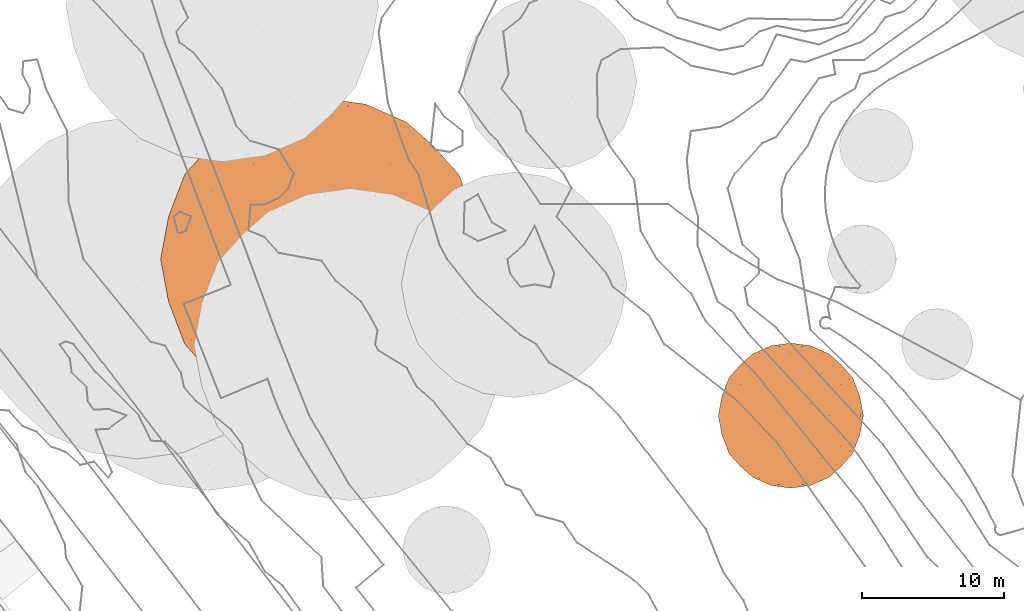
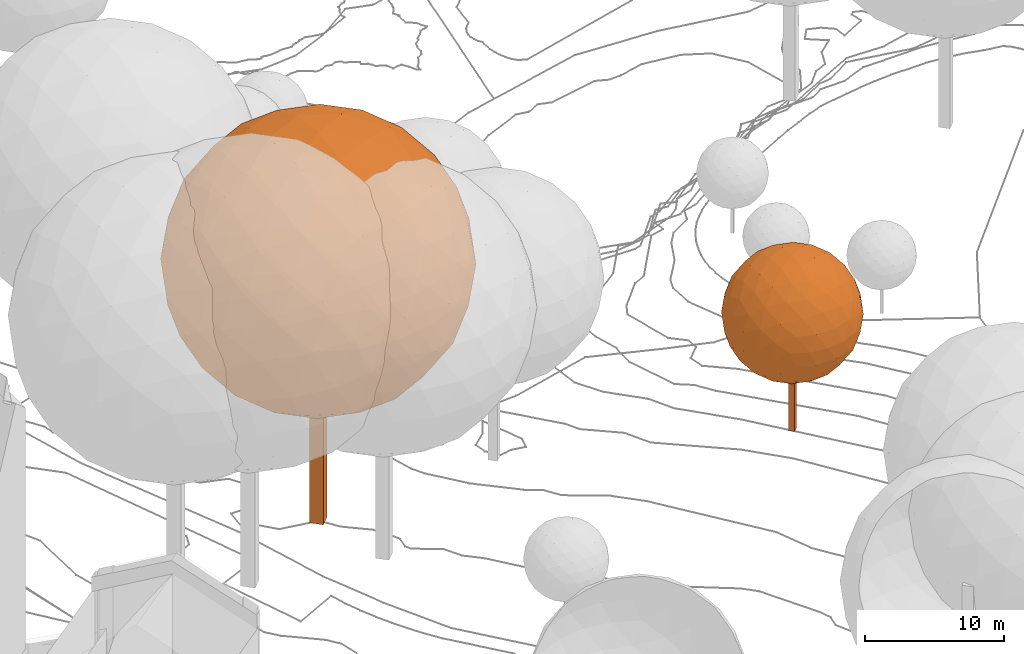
# Not in any storey, part 340 of 477: 2 geographic elements.
"""IFC4 model written with IfcOpenShell, lengths in metres."""

from ifc_helpers import new_model, si_unit, frame, origin_with_axes, place, context, subcontext, project, spatial, polygons, element, save


model = new_model("IFC4")

# Units and contexts
model_context = context("Model", 3, precision=1e-05, world=origin_with_axes())
body_context = subcontext(model_context, "Body", "Model", "MODEL_VIEW")
ifc_project = project(units=[si_unit("AREAUNIT", "SQUARE_METRE"), si_unit("LENGTHUNIT", "METRE")], contexts=[model_context])

# Sites
site_1_placement = place(None, origin_with_axes())
site_1 = spatial("IfcSite", under=ifc_project, at=site_1_placement, Name="Topoexport Site")
site_2_placement = place(site_1_placement, origin_with_axes())
site_2 = spatial("IfcSite", under=site_1, at=site_2_placement, Name="TPX_TREES")

# Geographic elements
geographic_element_1_placement = place(site_2_placement, frame((200.6777320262, 264.1707351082, 539.0314509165), z_axis=(0.0, 0.0, 1.0), x_axis=(1.0, 0.0, 0.0)))
element("IfcGeographicElement", 1, at=geographic_element_1_placement, inside=site_2, Name="Tree TR7 CD226", ObjectType="VEGETATION", PredefinedType="USERDEFINED", context=body_context, shape_type="Tessellation", body=[
    polygons([(0.0, -0.7220021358, 0.0), (-0.7220021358, 0.0, 0.0), (0.0, 0.7220021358, 0.0), (0.7220021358, 0.0, 0.0), (0.0, -0.7220021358, 22.6823660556), (-0.7220021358, 0.0, 22.6823660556), (0.0, 0.7220021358, 22.6823660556), (0.7220021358, 0.0, 22.6823660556)], [[[3, 4, 1]], [[1, 2, 3]], [[5, 8, 7]], [[7, 6, 5]], [[5, 6, 1]], [[1, 6, 2]], [[6, 7, 2]], [[2, 7, 3]], [[8, 5, 4]], [[4, 5, 1]], [[7, 8, 3]], [[3, 8, 4]]]),
    polygons([(-5.962412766, 9.6473865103, 22.6823660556), (5.962412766, 9.6473865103, 22.6823660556), (-5.962412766, -9.6473865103, 22.6823660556), (5.962412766, -9.6473865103, 22.6823660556), (0.0, -5.962412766, 32.3297525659), (0.0, 5.962412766, 32.3297525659), (0.0, -5.962412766, 13.0349795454), (0.0, 5.962412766, 13.0349795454), (9.6473865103, 0.0, 16.7199532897), (9.6473865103, 0.0, 28.6447788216), (-9.6473865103, 0.0, 16.7199532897), (-9.6473865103, 0.0, 28.6447788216), (0.0, 11.3411830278, 22.6823660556), (0.0, -11.3411830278, 22.6823660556), (-3.5046182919, -9.1752098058, 28.3529575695), (3.5046182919, -9.1752098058, 28.3529575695), (-3.5046182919, 9.1752098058, 28.3529575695), (3.5046182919, 9.1752098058, 28.3529575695), (0.0, 0.0, 34.0235490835), (-3.5046182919, -9.1752098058, 17.0117745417), (3.5046182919, -9.1752098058, 17.0117745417), (-3.5046182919, 9.1752098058, 17.0117745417), (3.5046182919, 9.1752098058, 17.0117745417), (0.0, 0.0, 11.3411830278), (9.1752098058, 5.6705915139, 19.1777477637), (9.1752098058, -5.6705915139, 19.1777477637), (5.6705915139, -3.5046182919, 13.5071562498), (5.6705915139, 3.5046182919, 13.5071562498), (9.1752098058, 5.6705915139, 26.1869843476), (9.1752098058, -5.6705915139, 26.1869843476), (5.6705915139, -3.5046182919, 31.8575758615), (5.6705915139, 3.5046182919, 31.8575758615), (11.3411830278, 0.0, 22.6823660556), (-9.1752098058, 5.6705915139, 19.1777477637), (-9.1752098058, -5.6705915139, 19.1777477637), (-5.6705915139, -3.5046182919, 13.5071562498), (-5.6705915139, 3.5046182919, 13.5071562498), (-9.1752098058, 5.6705915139, 26.1869843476), (-9.1752098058, -5.6705915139, 26.1869843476), (-5.6705915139, -3.5046182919, 31.8575758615), (-5.6705915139, 3.5046182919, 31.8575758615), (-11.3411830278, 0.0, 22.6823660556), (-3.0991657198, 10.9095189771, 22.6823660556), (3.0991657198, 10.9095189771, 22.6823660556), (-3.0991657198, -10.9095189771, 22.6823660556), (3.0991657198, -10.9095189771, 22.6823660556), (-4.9208096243, -9.7836811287, 25.6298478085), (-1.8216439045, -7.8682913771, 30.6444032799), (-1.8424868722, -10.7861060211, 25.6635724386), (4.9208096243, -9.7836811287, 25.6298478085), (1.8216439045, -7.8682913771, 30.6444032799), (1.8424868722, -10.7861060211, 25.6635724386), (0.0, -9.6473865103, 28.6447788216), (-4.9208096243, 9.7836811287, 25.6298478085), (-1.8216439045, 7.8682913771, 30.6444032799), (-1.8424868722, 10.7861060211, 25.6635724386), (4.9208096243, 9.7836811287, 25.6298478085), (1.8216439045, 7.8682913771, 30.6444032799), (1.8424868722, 10.7861060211, 25.6635724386), (0.0, 9.6473865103, 28.6447788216), (0.0, -3.0991657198, 33.5918850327), (0.0, 3.0991657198, 33.5918850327), (-4.9208096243, -9.7836811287, 19.7348843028), (-1.8216439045, -7.8682913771, 14.7203288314), (-1.8424868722, -10.7861060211, 19.7011596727), (4.9208096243, -9.7836811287, 19.7348843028), (1.8216439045, -7.8682913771, 14.7203288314), (1.8424868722, -10.7861060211, 19.7011596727), (0.0, -9.6473865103, 16.7199532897), (-4.9208096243, 9.7836811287, 19.7348843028), (-1.8216439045, 7.8682913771, 14.7203288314), (-1.8424868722, 10.7861060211, 19.7011596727), (4.9208096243, 9.7836811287, 19.7348843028), (1.8216439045, 7.8682913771, 14.7203288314), (1.8424868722, 10.7861060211, 19.7011596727), (0.0, 9.6473865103, 16.7199532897), (0.0, -3.0991657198, 11.7728470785), (0.0, 3.0991657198, 11.7728470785), (7.8682913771, 7.9620372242, 20.8607221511), (9.7836811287, 2.9474817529, 17.7615564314), (6.6661801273, 7.8048996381, 17.8586728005), (7.8682913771, -7.9620372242, 20.8607221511), (9.7836811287, -2.9474817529, 17.7615564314), (6.6661801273, -7.8048996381, 17.8586728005), (2.9474817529, -4.9208096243, 12.8986849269), (7.9620372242, -1.8216439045, 14.8140746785), (4.8236932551, -6.6661801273, 14.8774664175), (2.981206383, -1.8424868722, 11.8962600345), (7.8048996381, -4.8236932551, 16.0161859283), (2.9474817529, 4.9208096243, 12.8986849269), (7.9620372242, 1.8216439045, 14.8140746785), (4.8236932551, 6.6661801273, 14.8774664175), (2.981206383, 1.8424868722, 11.8962600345), (7.8048996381, 4.8236932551, 16.0161859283), (5.962412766, 0.0, 13.0349795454), (7.8682913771, 7.9620372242, 24.5040099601), (9.7836811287, 2.9474817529, 27.6031756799), (6.6661801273, 7.8048996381, 27.5060593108), (9.6473865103, 5.962412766, 22.6823660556), (7.8682913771, -7.9620372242, 24.5040099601), (9.7836811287, -2.9474817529, 27.6031756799), (6.6661801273, -7.8048996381, 27.5060593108), (9.6473865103, -5.962412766, 22.6823660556), (2.9474817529, -4.9208096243, 32.4660471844), (7.9620372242, -1.8216439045, 30.5506574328), (4.8236932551, -6.6661801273, 30.4872656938), (2.981206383, -1.8424868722, 33.4684720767), (7.8048996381, -4.8236932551, 29.3485461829), (2.9474817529, 4.9208096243, 32.4660471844), (7.9620372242, 1.8216439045, 30.5506574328), (4.8236932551, 6.6661801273, 30.4872656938), (2.981206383, 1.8424868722, 33.4684720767), (7.8048996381, 4.8236932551, 29.3485461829), (5.962412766, 0.0, 32.3297525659), (10.9095189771, 0.0, 19.5832003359), (10.9095189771, 0.0, 25.7815317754), (10.7861060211, 2.981206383, 20.8398791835), (10.7861060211, -2.981206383, 20.8398791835), (10.7861060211, 2.981206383, 24.5248529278), (10.7861060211, -2.981206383, 24.5248529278), (-7.8682913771, 7.9620372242, 20.8607221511), (-9.7836811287, 2.9474817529, 17.7615564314), (-6.6661801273, 7.8048996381, 17.8586728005), (-7.8682913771, -7.9620372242, 20.8607221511), (-9.7836811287, -2.9474817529, 17.7615564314), (-6.6661801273, -7.8048996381, 17.8586728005), (-2.9474817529, -4.9208096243, 12.8986849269), (-7.9620372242, -1.8216439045, 14.8140746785), (-4.8236932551, -6.6661801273, 14.8774664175), (-2.981206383, -1.8424868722, 11.8962600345), (-7.8048996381, -4.8236932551, 16.0161859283), (-2.9474817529, 4.9208096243, 12.8986849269), (-7.9620372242, 1.8216439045, 14.8140746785), (-4.8236932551, 6.6661801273, 14.8774664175), (-2.981206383, 1.8424868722, 11.8962600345), (-7.8048996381, 4.8236932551, 16.0161859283), (-5.962412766, 0.0, 13.0349795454), (-7.8682913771, 7.9620372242, 24.5040099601), (-9.7836811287, 2.9474817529, 27.6031756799), (-6.6661801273, 7.8048996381, 27.5060593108), (-9.6473865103, 5.962412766, 22.6823660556), (-7.8682913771, -7.9620372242, 24.5040099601), (-9.7836811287, -2.9474817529, 27.6031756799), (-6.6661801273, -7.8048996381, 27.5060593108), (-9.6473865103, -5.962412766, 22.6823660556), (-2.9474817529, -4.9208096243, 32.4660471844), (-7.9620372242, -1.8216439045, 30.5506574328), (-4.8236932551, -6.6661801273, 30.4872656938), (-2.981206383, -1.8424868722, 33.4684720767), (-7.8048996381, -4.8236932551, 29.3485461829), (-2.9474817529, 4.9208096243, 32.4660471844), (-7.9620372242, 1.8216439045, 30.5506574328), (-4.8236932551, 6.6661801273, 30.4872656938), (-2.981206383, 1.8424868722, 33.4684720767), (-7.8048996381, 4.8236932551, 29.3485461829), (-5.962412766, 0.0, 32.3297525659), (-10.9095189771, 0.0, 19.5832003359), (-10.9095189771, 0.0, 25.7815317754), (-10.7861060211, 2.981206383, 20.8398791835), (-10.7861060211, -2.981206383, 20.8398791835), (-10.7861060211, 2.981206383, 24.5248529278), (-10.7861060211, -2.981206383, 24.5248529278)], [[[1, 138, 54]], [[138, 38, 140]], [[54, 140, 17]], [[138, 140, 54]], [[38, 139, 155]], [[139, 12, 152]], [[155, 152, 41]], [[139, 152, 155]], [[17, 153, 55]], [[153, 41, 151]], [[55, 151, 6]], [[153, 151, 55]], [[38, 155, 140]], [[155, 41, 153]], [[140, 153, 17]], [[155, 153, 140]], [[1, 54, 43]], [[54, 17, 56]], [[43, 56, 13]], [[54, 56, 43]], [[17, 55, 60]], [[55, 6, 58]], [[60, 58, 18]], [[55, 58, 60]], [[13, 59, 44]], [[59, 18, 57]], [[44, 57, 2]], [[59, 57, 44]], [[17, 60, 56]], [[60, 18, 59]], [[56, 59, 13]], [[60, 59, 56]], [[1, 43, 70]], [[43, 13, 72]], [[70, 72, 22]], [[43, 72, 70]], [[13, 44, 75]], [[44, 2, 73]], [[75, 73, 23]], [[44, 73, 75]], [[22, 76, 71]], [[76, 23, 74]], [[71, 74, 8]], [[76, 74, 71]], [[13, 75, 72]], [[75, 23, 76]], [[72, 76, 22]], [[75, 76, 72]], [[1, 70, 121]], [[70, 22, 123]], [[121, 123, 34]], [[70, 123, 121]], [[22, 71, 134]], [[71, 8, 132]], [[134, 132, 37]], [[71, 132, 134]], [[34, 136, 122]], [[136, 37, 133]], [[122, 133, 11]], [[136, 133, 122]], [[22, 134, 123]], [[134, 37, 136]], [[123, 136, 34]], [[134, 136, 123]], [[1, 121, 138]], [[121, 34, 141]], [[138, 141, 38]], [[121, 141, 138]], [[34, 122, 159]], [[122, 11, 157]], [[159, 157, 42]], [[122, 157, 159]], [[38, 161, 139]], [[161, 42, 158]], [[139, 158, 12]], [[161, 158, 139]], [[34, 159, 141]], [[159, 42, 161]], [[141, 161, 38]], [[159, 161, 141]], [[2, 57, 96]], [[57, 18, 98]], [[96, 98, 29]], [[57, 98, 96]], [[18, 58, 111]], [[58, 6, 109]], [[111, 109, 32]], [[58, 109, 111]], [[29, 113, 97]], [[113, 32, 110]], [[97, 110, 10]], [[113, 110, 97]], [[18, 111, 98]], [[111, 32, 113]], [[98, 113, 29]], [[111, 113, 98]], [[6, 151, 62]], [[151, 41, 154]], [[62, 154, 19]], [[151, 154, 62]], [[41, 152, 156]], [[152, 12, 147]], [[156, 147, 40]], [[152, 147, 156]], [[19, 149, 61]], [[149, 40, 146]], [[61, 146, 5]], [[149, 146, 61]], [[41, 156, 154]], [[156, 40, 149]], [[154, 149, 19]], [[156, 149, 154]], [[12, 158, 143]], [[158, 42, 162]], [[143, 162, 39]], [[158, 162, 143]], [[42, 157, 160]], [[157, 11, 125]], [[160, 125, 35]], [[157, 125, 160]], [[39, 145, 142]], [[145, 35, 124]], [[142, 124, 3]], [[145, 124, 142]], [[42, 160, 162]], [[160, 35, 145]], [[162, 145, 39]], [[160, 145, 162]], [[11, 133, 128]], [[133, 37, 137]], [[128, 137, 36]], [[133, 137, 128]], [[37, 132, 135]], [[132, 8, 78]], [[135, 78, 24]], [[132, 78, 135]], [[36, 130, 127]], [[130, 24, 77]], [[127, 77, 7]], [[130, 77, 127]], [[37, 135, 137]], [[135, 24, 130]], [[137, 130, 36]], [[135, 130, 137]], [[8, 74, 90]], [[74, 23, 92]], [[90, 92, 28]], [[74, 92, 90]], [[23, 73, 81]], [[73, 2, 79]], [[81, 79, 25]], [[73, 79, 81]], [[28, 94, 91]], [[94, 25, 80]], [[91, 80, 9]], [[94, 80, 91]], [[23, 81, 92]], [[81, 25, 94]], [[92, 94, 28]], [[81, 94, 92]], [[4, 100, 50]], [[100, 30, 102]], [[50, 102, 16]], [[100, 102, 50]], [[30, 101, 108]], [[101, 10, 105]], [[108, 105, 31]], [[101, 105, 108]], [[16, 106, 51]], [[106, 31, 104]], [[51, 104, 5]], [[106, 104, 51]], [[30, 108, 102]], [[108, 31, 106]], [[102, 106, 16]], [[108, 106, 102]], [[4, 50, 46]], [[50, 16, 52]], [[46, 52, 14]], [[50, 52, 46]], [[16, 51, 53]], [[51, 5, 48]], [[53, 48, 15]], [[51, 48, 53]], [[14, 49, 45]], [[49, 15, 47]], [[45, 47, 3]], [[49, 47, 45]], [[16, 53, 52]], [[53, 15, 49]], [[52, 49, 14]], [[53, 49, 52]], [[4, 46, 66]], [[46, 14, 68]], [[66, 68, 21]], [[46, 68, 66]], [[14, 45, 65]], [[45, 3, 63]], [[65, 63, 20]], [[45, 63, 65]], [[21, 69, 67]], [[69, 20, 64]], [[67, 64, 7]], [[69, 64, 67]], [[14, 65, 68]], [[65, 20, 69]], [[68, 69, 21]], [[65, 69, 68]], [[4, 66, 82]], [[66, 21, 84]], [[82, 84, 26]], [[66, 84, 82]], [[21, 67, 87]], [[67, 7, 85]], [[87, 85, 27]], [[67, 85, 87]], [[26, 89, 83]], [[89, 27, 86]], [[83, 86, 9]], [[89, 86, 83]], [[21, 87, 84]], [[87, 27, 89]], [[84, 89, 26]], [[87, 89, 84]], [[4, 82, 100]], [[82, 26, 103]], [[100, 103, 30]], [[82, 103, 100]], [[26, 83, 118]], [[83, 9, 115]], [[118, 115, 33]], [[83, 115, 118]], [[30, 120, 101]], [[120, 33, 116]], [[101, 116, 10]], [[120, 116, 101]], [[26, 118, 103]], [[118, 33, 120]], [[103, 120, 30]], [[118, 120, 103]], [[5, 104, 61]], [[104, 31, 107]], [[61, 107, 19]], [[104, 107, 61]], [[31, 105, 114]], [[105, 10, 110]], [[114, 110, 32]], [[105, 110, 114]], [[19, 112, 62]], [[112, 32, 109]], [[62, 109, 6]], [[112, 109, 62]], [[31, 114, 107]], [[114, 32, 112]], [[107, 112, 19]], [[114, 112, 107]], [[3, 47, 142]], [[47, 15, 144]], [[142, 144, 39]], [[47, 144, 142]], [[15, 48, 148]], [[48, 5, 146]], [[148, 146, 40]], [[48, 146, 148]], [[39, 150, 143]], [[150, 40, 147]], [[143, 147, 12]], [[150, 147, 143]], [[15, 148, 144]], [[148, 40, 150]], [[144, 150, 39]], [[148, 150, 144]], [[7, 64, 127]], [[64, 20, 129]], [[127, 129, 36]], [[64, 129, 127]], [[20, 63, 126]], [[63, 3, 124]], [[126, 124, 35]], [[63, 124, 126]], [[36, 131, 128]], [[131, 35, 125]], [[128, 125, 11]], [[131, 125, 128]], [[20, 126, 129]], [[126, 35, 131]], [[129, 131, 36]], [[126, 131, 129]], [[9, 86, 91]], [[86, 27, 95]], [[91, 95, 28]], [[86, 95, 91]], [[27, 85, 88]], [[85, 7, 77]], [[88, 77, 24]], [[85, 77, 88]], [[28, 93, 90]], [[93, 24, 78]], [[90, 78, 8]], [[93, 78, 90]], [[27, 88, 95]], [[88, 24, 93]], [[95, 93, 28]], [[88, 93, 95]], [[10, 116, 97]], [[116, 33, 119]], [[97, 119, 29]], [[116, 119, 97]], [[33, 115, 117]], [[115, 9, 80]], [[117, 80, 25]], [[115, 80, 117]], [[29, 99, 96]], [[99, 25, 79]], [[96, 79, 2]], [[99, 79, 96]], [[33, 117, 119]], [[117, 25, 99]], [[119, 99, 29]], [[117, 99, 119]]]),
])
geographic_element_2_placement = place(site_2_placement, frame((233.6777320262, 253.1707354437, 542.0895125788), z_axis=(0.0, 0.0, 1.0), x_axis=(1.0, 0.0, 0.0)))
element("IfcGeographicElement", 2, at=geographic_element_2_placement, inside=site_2, Name="Tree TR3 CD102", ObjectType="VEGETATION", PredefinedType="USERDEFINED", context=body_context, shape_type="Tessellation", body=[
    polygons([(0.0, -0.3250683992, 0.0), (-0.3250683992, 0.0, 0.0), (0.0, 0.3250683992, 0.0), (0.3250683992, 0.0, 0.0), (0.0, -0.3250683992, 10.2123249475), (-0.3250683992, 0.0, 10.2123249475), (0.0, 0.3250683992, 10.2123249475), (0.3250683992, 0.0, 10.2123249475)], [[[3, 4, 1]], [[1, 2, 3]], [[5, 8, 7]], [[7, 6, 5]], [[5, 6, 1]], [[1, 6, 2]], [[6, 7, 2]], [[2, 7, 3]], [[8, 5, 4]], [[4, 5, 1]], [[7, 8, 3]], [[3, 8, 4]]]),
    polygons([(-2.684468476, 4.3435612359, 10.2123249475), (2.684468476, 4.3435612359, 10.2123249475), (-2.684468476, -4.3435612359, 10.2123249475), (2.684468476, -4.3435612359, 10.2123249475), (0.0, -2.684468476, 14.5558861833), (0.0, 2.684468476, 14.5558861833), (0.0, -2.684468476, 5.8687637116), (0.0, 2.684468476, 5.8687637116), (4.3435612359, 0.0, 7.5278564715), (4.3435612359, 0.0, 12.8967934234), (-4.3435612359, 0.0, 7.5278564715), (-4.3435612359, 0.0, 12.8967934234), (0.0, 5.1061624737, 10.2123249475), (0.0, -5.1061624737, 10.2123249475), (-1.5778909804, -4.1309722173, 12.7654061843), (1.5778909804, -4.1309722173, 12.7654061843), (-1.5778909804, 4.1309722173, 12.7654061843), (1.5778909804, 4.1309722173, 12.7654061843), (0.0, 0.0, 15.3184874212), (-1.5778909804, -4.1309722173, 7.6592437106), (1.5778909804, -4.1309722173, 7.6592437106), (-1.5778909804, 4.1309722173, 7.6592437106), (1.5778909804, 4.1309722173, 7.6592437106), (0.0, 0.0, 5.1061624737), (4.1309722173, 2.5530812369, 8.634433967), (4.1309722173, -2.5530812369, 8.634433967), (2.5530812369, -1.5778909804, 6.0813527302), (2.5530812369, 1.5778909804, 6.0813527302), (4.1309722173, 2.5530812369, 11.7902159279), (4.1309722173, -2.5530812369, 11.7902159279), (2.5530812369, -1.5778909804, 14.3432971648), (2.5530812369, 1.5778909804, 14.3432971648), (5.1061624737, 0.0, 10.2123249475), (-4.1309722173, 2.5530812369, 8.634433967), (-4.1309722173, -2.5530812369, 8.634433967), (-2.5530812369, -1.5778909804, 6.0813527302), (-2.5530812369, 1.5778909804, 6.0813527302), (-4.1309722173, 2.5530812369, 11.7902159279), (-4.1309722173, -2.5530812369, 11.7902159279), (-2.5530812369, -1.5778909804, 14.3432971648), (-2.5530812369, 1.5778909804, 14.3432971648), (-5.1061624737, 0.0, 10.2123249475), (-1.3953432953, 4.9118135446, 10.2123249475), (1.3953432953, 4.9118135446, 10.2123249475), (-1.3953432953, -4.9118135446, 10.2123249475), (1.3953432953, -4.9118135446, 10.2123249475), (-2.2155055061, -4.404925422, 11.5393752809), (-0.8201622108, -3.5425558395, 13.7970881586), (-0.8295463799, -4.8562490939, 11.5545591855), (2.2155055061, -4.404925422, 11.5393752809), (0.8201622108, -3.5425558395, 13.7970881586), (0.8295463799, -4.8562490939, 11.5545591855), (0.0, -4.3435612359, 12.8967934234), (-2.2155055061, 4.404925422, 11.5393752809), (-0.8201622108, 3.5425558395, 13.7970881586), (-0.8295463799, 4.8562490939, 11.5545591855), (2.2155055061, 4.404925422, 11.5393752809), (0.8201622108, 3.5425558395, 13.7970881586), (0.8295463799, 4.8562490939, 11.5545591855), (0.0, 4.3435612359, 12.8967934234), (0.0, -1.3953432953, 15.124138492), (0.0, 1.3953432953, 15.124138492), (-2.2155055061, -4.404925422, 8.885274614), (-0.8201622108, -3.5425558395, 6.6275617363), (-0.8295463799, -4.8562490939, 8.8700907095), (2.2155055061, -4.404925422, 8.885274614), (0.8201622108, -3.5425558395, 6.6275617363), (0.8295463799, -4.8562490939, 8.8700907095), (0.0, -4.3435612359, 7.5278564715), (-2.2155055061, 4.404925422, 8.885274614), (-0.8201622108, 3.5425558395, 6.6275617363), (-0.8295463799, 4.8562490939, 8.8700907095), (2.2155055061, 4.404925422, 8.885274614), (0.8201622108, 3.5425558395, 6.6275617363), (0.8295463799, 4.8562490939, 8.8700907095), (0.0, 4.3435612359, 7.5278564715), (0.0, -1.3953432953, 5.3005114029), (0.0, 1.3953432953, 5.3005114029), (3.5425558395, 3.5847632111, 9.3921627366), (4.404925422, 1.3270503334, 7.9968194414), (3.0013269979, 3.5140148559, 8.0405443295), (3.5425558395, -3.5847632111, 9.3921627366), (4.404925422, -1.3270503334, 7.9968194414), (3.0013269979, -3.5140148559, 8.0405443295), (1.3270503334, -2.2155055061, 5.8073995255), (3.5847632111, -0.8201622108, 6.6697691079), (2.1717806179, -3.0013269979, 6.6983100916), (1.342234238, -0.8295463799, 5.3560758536), (3.5140148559, -2.1717806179, 7.2109979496), (1.3270503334, 2.2155055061, 5.8073995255), (3.5847632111, 0.8201622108, 6.6697691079), (2.1717806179, 3.0013269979, 6.6983100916), (1.342234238, 0.8295463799, 5.3560758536), (3.5140148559, 2.1717806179, 7.2109979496), (2.684468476, 0.0, 5.8687637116), (3.5425558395, 3.5847632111, 11.0324871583), (4.404925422, 1.3270503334, 12.4278304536), (3.0013269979, 3.5140148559, 12.3841055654), (4.3435612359, 2.684468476, 10.2123249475), (3.5425558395, -3.5847632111, 11.0324871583), (4.404925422, -1.3270503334, 12.4278304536), (3.0013269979, -3.5140148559, 12.3841055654), (4.3435612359, -2.684468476, 10.2123249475), (1.3270503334, -2.2155055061, 14.6172503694), (3.5847632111, -0.8201622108, 13.754880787), (2.1717806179, -3.0013269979, 13.7263398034), (1.342234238, -0.8295463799, 15.0685740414), (3.5140148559, -2.1717806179, 13.2136519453), (1.3270503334, 2.2155055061, 14.6172503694), (3.5847632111, 0.8201622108, 13.754880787), (2.1717806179, 3.0013269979, 13.7263398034), (1.342234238, 0.8295463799, 15.0685740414), (3.5140148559, 2.1717806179, 13.2136519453), (2.684468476, 0.0, 14.5558861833), (4.9118135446, 0.0, 8.8169816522), (4.9118135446, 0.0, 11.6076682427), (4.8562490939, 1.342234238, 9.3827785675), (4.8562490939, -1.342234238, 9.3827785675), (4.8562490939, 1.342234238, 11.0418713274), (4.8562490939, -1.342234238, 11.0418713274), (-3.5425558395, 3.5847632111, 9.3921627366), (-4.404925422, 1.3270503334, 7.9968194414), (-3.0013269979, 3.5140148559, 8.0405443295), (-3.5425558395, -3.5847632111, 9.3921627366), (-4.404925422, -1.3270503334, 7.9968194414), (-3.0013269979, -3.5140148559, 8.0405443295), (-1.3270503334, -2.2155055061, 5.8073995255), (-3.5847632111, -0.8201622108, 6.6697691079), (-2.1717806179, -3.0013269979, 6.6983100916), (-1.342234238, -0.8295463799, 5.3560758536), (-3.5140148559, -2.1717806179, 7.2109979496), (-1.3270503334, 2.2155055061, 5.8073995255), (-3.5847632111, 0.8201622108, 6.6697691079), (-2.1717806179, 3.0013269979, 6.6983100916), (-1.342234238, 0.8295463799, 5.3560758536), (-3.5140148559, 2.1717806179, 7.2109979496), (-2.684468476, 0.0, 5.8687637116), (-3.5425558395, 3.5847632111, 11.0324871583), (-4.404925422, 1.3270503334, 12.4278304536), (-3.0013269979, 3.5140148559, 12.3841055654), (-4.3435612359, 2.684468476, 10.2123249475), (-3.5425558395, -3.5847632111, 11.0324871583), (-4.404925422, -1.3270503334, 12.4278304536), (-3.0013269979, -3.5140148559, 12.3841055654), (-4.3435612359, -2.684468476, 10.2123249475), (-1.3270503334, -2.2155055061, 14.6172503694), (-3.5847632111, -0.8201622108, 13.754880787), (-2.1717806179, -3.0013269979, 13.7263398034), (-1.342234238, -0.8295463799, 15.0685740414), (-3.5140148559, -2.1717806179, 13.2136519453), (-1.3270503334, 2.2155055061, 14.6172503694), (-3.5847632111, 0.8201622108, 13.754880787), (-2.1717806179, 3.0013269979, 13.7263398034), (-1.342234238, 0.8295463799, 15.0685740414), (-3.5140148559, 2.1717806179, 13.2136519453), (-2.684468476, 0.0, 14.5558861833), (-4.9118135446, 0.0, 8.8169816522), (-4.9118135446, 0.0, 11.6076682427), (-4.8562490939, 1.342234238, 9.3827785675), (-4.8562490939, -1.342234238, 9.3827785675), (-4.8562490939, 1.342234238, 11.0418713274), (-4.8562490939, -1.342234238, 11.0418713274)], [[[1, 138, 54]], [[138, 38, 140]], [[54, 140, 17]], [[138, 140, 54]], [[38, 139, 155]], [[139, 12, 152]], [[155, 152, 41]], [[139, 152, 155]], [[17, 153, 55]], [[153, 41, 151]], [[55, 151, 6]], [[153, 151, 55]], [[38, 155, 140]], [[155, 41, 153]], [[140, 153, 17]], [[155, 153, 140]], [[1, 54, 43]], [[54, 17, 56]], [[43, 56, 13]], [[54, 56, 43]], [[17, 55, 60]], [[55, 6, 58]], [[60, 58, 18]], [[55, 58, 60]], [[13, 59, 44]], [[59, 18, 57]], [[44, 57, 2]], [[59, 57, 44]], [[17, 60, 56]], [[60, 18, 59]], [[56, 59, 13]], [[60, 59, 56]], [[1, 43, 70]], [[43, 13, 72]], [[70, 72, 22]], [[43, 72, 70]], [[13, 44, 75]], [[44, 2, 73]], [[75, 73, 23]], [[44, 73, 75]], [[22, 76, 71]], [[76, 23, 74]], [[71, 74, 8]], [[76, 74, 71]], [[13, 75, 72]], [[75, 23, 76]], [[72, 76, 22]], [[75, 76, 72]], [[1, 70, 121]], [[70, 22, 123]], [[121, 123, 34]], [[70, 123, 121]], [[22, 71, 134]], [[71, 8, 132]], [[134, 132, 37]], [[71, 132, 134]], [[34, 136, 122]], [[136, 37, 133]], [[122, 133, 11]], [[136, 133, 122]], [[22, 134, 123]], [[134, 37, 136]], [[123, 136, 34]], [[134, 136, 123]], [[1, 121, 138]], [[121, 34, 141]], [[138, 141, 38]], [[121, 141, 138]], [[34, 122, 159]], [[122, 11, 157]], [[159, 157, 42]], [[122, 157, 159]], [[38, 161, 139]], [[161, 42, 158]], [[139, 158, 12]], [[161, 158, 139]], [[34, 159, 141]], [[159, 42, 161]], [[141, 161, 38]], [[159, 161, 141]], [[2, 57, 96]], [[57, 18, 98]], [[96, 98, 29]], [[57, 98, 96]], [[18, 58, 111]], [[58, 6, 109]], [[111, 109, 32]], [[58, 109, 111]], [[29, 113, 97]], [[113, 32, 110]], [[97, 110, 10]], [[113, 110, 97]], [[18, 111, 98]], [[111, 32, 113]], [[98, 113, 29]], [[111, 113, 98]], [[6, 151, 62]], [[151, 41, 154]], [[62, 154, 19]], [[151, 154, 62]], [[41, 152, 156]], [[152, 12, 147]], [[156, 147, 40]], [[152, 147, 156]], [[19, 149, 61]], [[149, 40, 146]], [[61, 146, 5]], [[149, 146, 61]], [[41, 156, 154]], [[156, 40, 149]], [[154, 149, 19]], [[156, 149, 154]], [[12, 158, 143]], [[158, 42, 162]], [[143, 162, 39]], [[158, 162, 143]], [[42, 157, 160]], [[157, 11, 125]], [[160, 125, 35]], [[157, 125, 160]], [[39, 145, 142]], [[145, 35, 124]], [[142, 124, 3]], [[145, 124, 142]], [[42, 160, 162]], [[160, 35, 145]], [[162, 145, 39]], [[160, 145, 162]], [[11, 133, 128]], [[133, 37, 137]], [[128, 137, 36]], [[133, 137, 128]], [[37, 132, 135]], [[132, 8, 78]], [[135, 78, 24]], [[132, 78, 135]], [[36, 130, 127]], [[130, 24, 77]], [[127, 77, 7]], [[130, 77, 127]], [[37, 135, 137]], [[135, 24, 130]], [[137, 130, 36]], [[135, 130, 137]], [[8, 74, 90]], [[74, 23, 92]], [[90, 92, 28]], [[74, 92, 90]], [[23, 73, 81]], [[73, 2, 79]], [[81, 79, 25]], [[73, 79, 81]], [[28, 94, 91]], [[94, 25, 80]], [[91, 80, 9]], [[94, 80, 91]], [[23, 81, 92]], [[81, 25, 94]], [[92, 94, 28]], [[81, 94, 92]], [[4, 100, 50]], [[100, 30, 102]], [[50, 102, 16]], [[100, 102, 50]], [[30, 101, 108]], [[101, 10, 105]], [[108, 105, 31]], [[101, 105, 108]], [[16, 106, 51]], [[106, 31, 104]], [[51, 104, 5]], [[106, 104, 51]], [[30, 108, 102]], [[108, 31, 106]], [[102, 106, 16]], [[108, 106, 102]], [[4, 50, 46]], [[50, 16, 52]], [[46, 52, 14]], [[50, 52, 46]], [[16, 51, 53]], [[51, 5, 48]], [[53, 48, 15]], [[51, 48, 53]], [[14, 49, 45]], [[49, 15, 47]], [[45, 47, 3]], [[49, 47, 45]], [[16, 53, 52]], [[53, 15, 49]], [[52, 49, 14]], [[53, 49, 52]], [[4, 46, 66]], [[46, 14, 68]], [[66, 68, 21]], [[46, 68, 66]], [[14, 45, 65]], [[45, 3, 63]], [[65, 63, 20]], [[45, 63, 65]], [[21, 69, 67]], [[69, 20, 64]], [[67, 64, 7]], [[69, 64, 67]], [[14, 65, 68]], [[65, 20, 69]], [[68, 69, 21]], [[65, 69, 68]], [[4, 66, 82]], [[66, 21, 84]], [[82, 84, 26]], [[66, 84, 82]], [[21, 67, 87]], [[67, 7, 85]], [[87, 85, 27]], [[67, 85, 87]], [[26, 89, 83]], [[89, 27, 86]], [[83, 86, 9]], [[89, 86, 83]], [[21, 87, 84]], [[87, 27, 89]], [[84, 89, 26]], [[87, 89, 84]], [[4, 82, 100]], [[82, 26, 103]], [[100, 103, 30]], [[82, 103, 100]], [[26, 83, 118]], [[83, 9, 115]], [[118, 115, 33]], [[83, 115, 118]], [[30, 120, 101]], [[120, 33, 116]], [[101, 116, 10]], [[120, 116, 101]], [[26, 118, 103]], [[118, 33, 120]], [[103, 120, 30]], [[118, 120, 103]], [[5, 104, 61]], [[104, 31, 107]], [[61, 107, 19]], [[104, 107, 61]], [[31, 105, 114]], [[105, 10, 110]], [[114, 110, 32]], [[105, 110, 114]], [[19, 112, 62]], [[112, 32, 109]], [[62, 109, 6]], [[112, 109, 62]], [[31, 114, 107]], [[114, 32, 112]], [[107, 112, 19]], [[114, 112, 107]], [[3, 47, 142]], [[47, 15, 144]], [[142, 144, 39]], [[47, 144, 142]], [[15, 48, 148]], [[48, 5, 146]], [[148, 146, 40]], [[48, 146, 148]], [[39, 150, 143]], [[150, 40, 147]], [[143, 147, 12]], [[150, 147, 143]], [[15, 148, 144]], [[148, 40, 150]], [[144, 150, 39]], [[148, 150, 144]], [[7, 64, 127]], [[64, 20, 129]], [[127, 129, 36]], [[64, 129, 127]], [[20, 63, 126]], [[63, 3, 124]], [[126, 124, 35]], [[63, 124, 126]], [[36, 131, 128]], [[131, 35, 125]], [[128, 125, 11]], [[131, 125, 128]], [[20, 126, 129]], [[126, 35, 131]], [[129, 131, 36]], [[126, 131, 129]], [[9, 86, 91]], [[86, 27, 95]], [[91, 95, 28]], [[86, 95, 91]], [[27, 85, 88]], [[85, 7, 77]], [[88, 77, 24]], [[85, 77, 88]], [[28, 93, 90]], [[93, 24, 78]], [[90, 78, 8]], [[93, 78, 90]], [[27, 88, 95]], [[88, 24, 93]], [[95, 93, 28]], [[88, 93, 95]], [[10, 116, 97]], [[116, 33, 119]], [[97, 119, 29]], [[116, 119, 97]], [[33, 115, 117]], [[115, 9, 80]], [[117, 80, 25]], [[115, 80, 117]], [[29, 99, 96]], [[99, 25, 79]], [[96, 79, 2]], [[99, 79, 96]], [[33, 117, 119]], [[117, 25, 99]], [[119, 99, 29]], [[117, 99, 119]]]),
])

save(model, "model.ifc")
